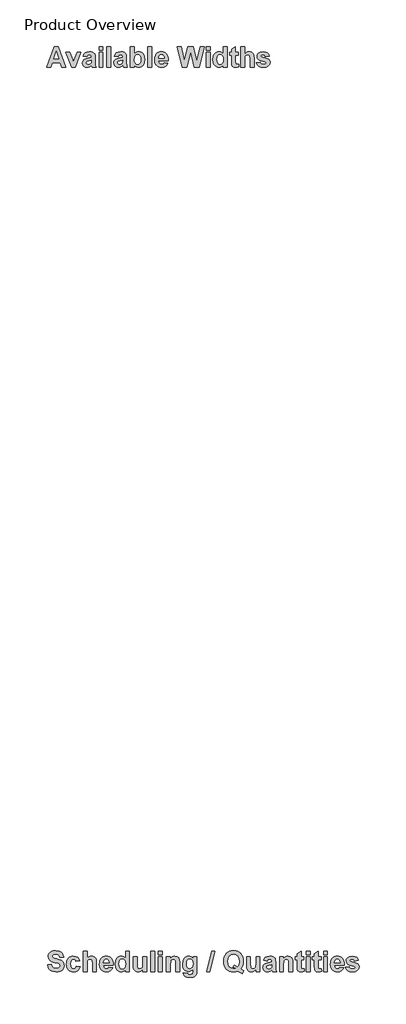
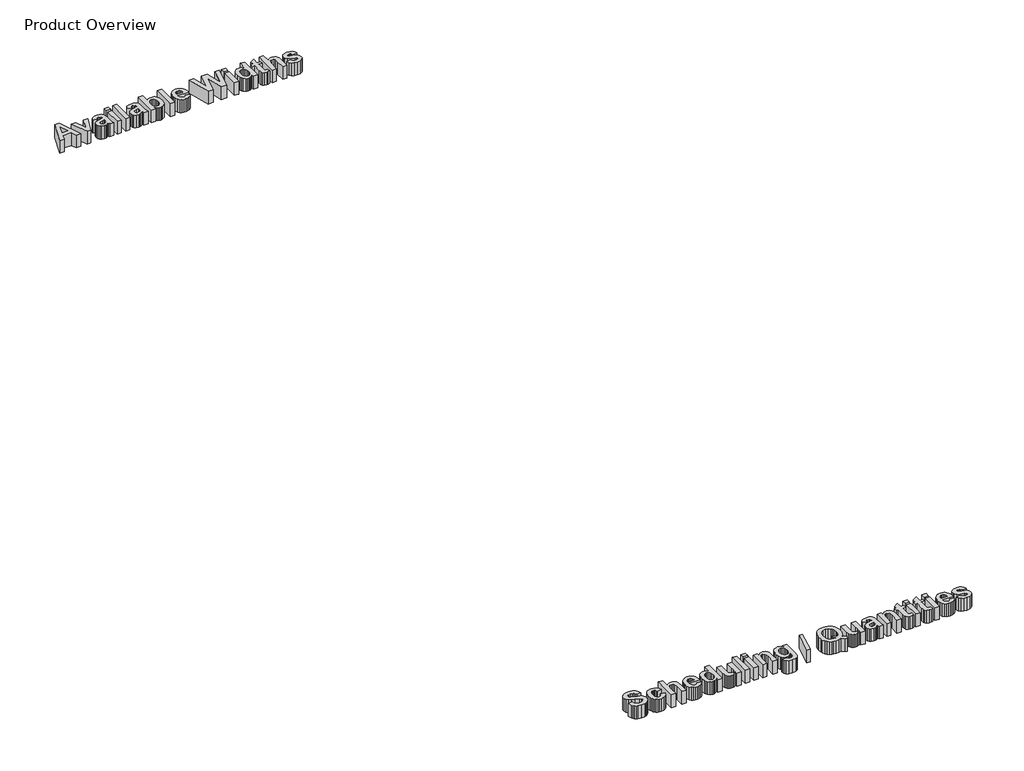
# One storey, part 8 of 11: 2 proxies.
"""IFC4 building model written with IfcOpenShell, lengths in millimetres."""

from ifc_helpers import new_model, si_unit, origin, origin_with_axes, place, context, project, spatial, polyline, outline, extrude, element, save

model = new_model("IFC4")

# Units and contexts
model_context = context("Model", 3, world=origin())
ifc_project = project(units=[si_unit("LENGTHUNIT", "METRE", prefix="MILLI")], contexts=[model_context])

# Site, building, storey
site = spatial("IfcSite", under=ifc_project)
building = spatial("IfcBuilding", under=site)
storey = spatial("IfcBuildingStorey", under=building, Name="Product Overview", Elevation=0.0)

# Proxies
placement = place(None, origin())
element("IfcBuildingElementProxy", 1, Name="250.0 BOLD", ObjectType="250.0 BOLD", at=placement, inside=storey, context=model_context, shape_type="SweptSolid", body=[
    extrude(outline(polyline([(8437.4567345, -11893.8362158), (8387.4195322, -11893.8362158), (8367.8262782, -11838.2806603), (8273.3942345, -11838.2806603), (8254.0489965, -11893.8362158), (8203.3297504, -11893.8362158), (8294.5995917, -11643.8362158), (8345.3188377, -11643.8362158), (8437.4567345, -11893.8362158)]), holes=[polyline([(8352.573302, -11794.6298666), (8320.3932425, -11703.3600253), (8288.6472107, -11794.6298666), (8352.573302, -11794.6298666)])]), origin_with_axes(), (0.0, 0.0, 1.0), 150.0),
    extrude(outline(polyline([(8510.2493933, -11893.8362158), (8439.4408615, -11711.2965333), (8487.0599092, -11711.2965333), (8520.9140758, -11804.4264936), (8530.7107028, -11835.5524857), (8535.5470123, -11819.9274857), (8540.5693338, -11804.4264936), (8574.3614965, -11711.2965333), (8621.9805441, -11711.2965333), (8552.1640758, -11893.8362158), (8510.2493933, -11893.8362158)])), origin_with_axes(), (0.0, 0.0, 1.0), 150.0),
    extrude(outline(polyline([(8691.4249885, -11766.8520888), (8647.7741949, -11758.9155809), (8657.2375505, -11736.0361166), (8671.7387286, -11719.9770888), (8692.8743313, -11710.4904817), (8722.2409607, -11707.3282793), (8748.7941601, -11709.2426518), (8767.5658615, -11714.9857694), (8780.245673, -11723.666325), (8788.5232028, -11734.3930115), (8793.0804945, -11751.0643284), (8794.5995917, -11777.5787753), (8794.5995917, -11833.8783785), (8797.1107524, -11869.3446484), (8806.5043536, -11893.8362158), (8758.885306, -11893.8362158), (8754.4210203, -11878.7072476), (8752.7469131, -11872.6928627), (8727.2632822, -11891.511067), (8713.2348843, -11896.2311191), (8698.307429, -11897.8044698), (8674.0251249, -11893.9834753), (8655.4936889, -11882.5204916), (8643.7516874, -11865.229135), (8639.8376869, -11843.9230214), (8641.5815485, -11829.3210869), (8646.8131334, -11816.3932595), (8655.1914196, -11805.7130759), (8666.3753853, -11797.854073), (8702.6477068, -11786.6313547), (8746.9805441, -11774.7885968), (8746.9805441, -11769.7662753), (8745.5001993, -11757.3964837), (8741.0591651, -11749.1809579), (8732.525869, -11744.5771632), (8718.7687385, -11743.042565), (8708.8946066, -11744.3601494), (8701.4696314, -11748.3129023), (8691.4249885, -11766.8520888)]), holes=[polyline([(8746.9805441, -11810.5028825), (8720.1328258, -11817.1063051), (8696.0752861, -11824.6397873), (8689.6113724, -11831.4137208), (8687.4567345, -11839.8307595), (8689.1850952, -11848.2710497), (8694.370177, -11855.4867615), (8702.2214295, -11860.4393284), (8711.948302, -11862.0901841), (8723.620549, -11860.1680611), (8734.7037584, -11854.401692), (8745.244433, -11840.1407793), (8746.9805441, -11819.1214341), (8746.9805441, -11810.5028825)])]), origin_with_axes(), (0.0, 0.0, 1.0), 150.0),
    extrude(outline(polyline([(8842.2186393, -11687.4870095), (8842.2186393, -11643.8362158), (8889.8376869, -11643.8362158), (8889.8376869, -11687.4870095), (8842.2186393, -11687.4870095)])), origin_with_axes(), (0.0, 0.0, 1.0), 150.0),
    extrude(outline(polyline([(8842.2186393, -11893.8362158), (8842.2186393, -11711.2965333), (8889.8376869, -11711.2965333), (8889.8376869, -11893.8362158), (8842.2186393, -11893.8362158)])), origin_with_axes(), (0.0, 0.0, 1.0), 150.0),
    extrude(outline(polyline([(8937.4567345, -11893.8362158), (8937.4567345, -11643.8362158), (8985.0757822, -11643.8362158), (8985.0757822, -11893.8362158), (8937.4567345, -11893.8362158)])), origin_with_axes(), (0.0, 0.0, 1.0), 150.0),
    extrude(outline(polyline([(9072.3773695, -11766.8520888), (9028.7265758, -11758.9155809), (9038.1899315, -11736.0361166), (9052.6911095, -11719.9770888), (9073.8267122, -11710.4904817), (9103.1933417, -11707.3282793), (9129.7465411, -11709.2426518), (9148.5182425, -11714.9857694), (9161.198054, -11723.666325), (9169.4755838, -11734.3930115), (9174.0328754, -11751.0643284), (9175.5519726, -11777.5787753), (9175.5519726, -11833.8783785), (9178.0631334, -11869.3446484), (9187.4567345, -11893.8362158), (9139.8376869, -11893.8362158), (9135.3734012, -11878.7072476), (9133.6992941, -11872.6928627), (9108.2156631, -11891.511067), (9094.1872653, -11896.2311191), (9079.2598099, -11897.8044698), (9054.9775059, -11893.9834753), (9036.4460699, -11882.5204916), (9024.7040684, -11865.229135), (9020.7900679, -11843.9230214), (9022.5339295, -11829.3210869), (9027.7655143, -11816.3932595), (9036.1438005, -11805.7130759), (9047.3277663, -11797.854073), (9083.6000877, -11786.6313547), (9127.932925, -11774.7885968), (9127.932925, -11769.7662753), (9126.4525803, -11757.3964837), (9122.0115461, -11749.1809579), (9113.4782499, -11744.5771632), (9099.7211195, -11743.042565), (9089.8469875, -11744.3601494), (9082.4220123, -11748.3129023), (9072.3773695, -11766.8520888)]), holes=[polyline([(9127.932925, -11810.5028825), (9101.0852068, -11817.1063051), (9077.0276671, -11824.6397873), (9070.5637534, -11831.4137208), (9068.4091155, -11839.8307595), (9070.1374761, -11848.2710497), (9075.322558, -11855.4867615), (9083.1738104, -11860.4393284), (9092.900683, -11862.0901841), (9104.57293, -11860.1680611), (9115.6561393, -11854.401692), (9126.1968139, -11840.1407793), (9127.932925, -11819.1214341), (9127.932925, -11810.5028825)])]), origin_with_axes(), (0.0, 0.0, 1.0), 150.0),
    extrude(outline(polyline([(9223.1710203, -11893.8362158), (9223.1710203, -11643.8362158), (9270.7900679, -11643.8362158), (9270.7900679, -11732.3158785), (9294.6305937, -11713.5751791), (9308.0622033, -11708.8900043), (9322.5013774, -11707.3282793), (9338.1031259, -11708.8357508), (9352.2942842, -11713.3581652), (9365.0748521, -11720.8955226), (9376.4448298, -11731.447823), (9385.776427, -11744.8213039), (9392.4418536, -11760.8222029), (9397.7741949, -11800.7062555), (9392.4728556, -11841.9853974), (9385.8461815, -11858.6140866), (9376.5688377, -11872.5688547), (9353.1003357, -11891.495566), (9339.6687261, -11896.2272439), (9325.1055441, -11897.8044698), (9310.3253481, -11895.8978478), (9295.7466651, -11890.1779817), (9282.2685525, -11880.7068755), (9270.7900679, -11867.5465333), (9270.7900679, -11893.8362158), (9223.1710203, -11893.8362158)]), holes=[polyline([(9270.7900679, -11799.0941523), (9272.9912088, -11824.4847773), (9279.5946314, -11842.2489142), (9293.917548, -11857.1298666), (9312.3327266, -11862.0901841), (9326.8649067, -11858.5714589), (9339.0874389, -11848.0152833), (9347.3882202, -11829.9101246), (9350.1551472, -11803.74445), (9347.3727192, -11776.0054247), (9339.0254349, -11757.2724757), (9326.3223719, -11746.6000427), (9310.4726076, -11743.042565), (9294.8553581, -11746.5147873), (9282.1057921, -11756.9314539), (9273.6189989, -11774.416573), (9270.7900679, -11799.0941523)])]), origin_with_axes(), (0.0, 0.0, 1.0), 150.0),
    extrude(outline(polyline([(9433.4884806, -11893.8362158), (9433.4884806, -11643.8362158), (9481.1075282, -11643.8362158), (9481.1075282, -11893.8362158), (9433.4884806, -11893.8362158)])), origin_with_axes(), (0.0, 0.0, 1.0), 150.0),
    extrude(outline(polyline([(9631.901179, -11838.2806603), (9679.5202266, -11846.2171682), (9667.9254845, -11868.4378403), (9651.1224092, -11884.6286265), (9629.2815113, -11894.510509), (9602.573302, -11897.8044698), (9581.0075468, -11895.8629705), (9562.4412336, -11890.0384728), (9546.8743623, -11880.3309765), (9534.306933, -11866.7404817), (9521.1930937, -11838.6061811), (9516.8218139, -11803.9304619), (9518.2711567, -11782.5235918), (9522.6191849, -11763.5658785), (9529.8658987, -11747.057322), (9540.011298, -11732.9979222), (9552.3733392, -11721.7674534), (9566.2699786, -11713.74569), (9581.7012162, -11708.932632), (9598.667052, -11707.3282793), (9617.5201336, -11708.9752597), (9634.2728308, -11713.9162009), (9648.9251435, -11722.151103), (9661.4770718, -11733.6799658), (9671.479087, -11748.6112964), (9678.4816601, -11767.0536017), (9682.4847913, -11789.0068817), (9683.4884806, -11814.4711365), (9564.4408615, -11814.4711365), (9567.494557, -11834.5294202), (9575.6635798, -11849.5653825), (9587.7078506, -11858.9589837), (9602.3872901, -11862.0901841), (9612.38543, -11860.6795938), (9620.6784607, -11856.447823), (9627.2043784, -11849.0848517), (9631.901179, -11838.2806603)]), holes=[polyline([(9635.869433, -11786.6933587), (9632.9707474, -11767.8674038), (9625.2667544, -11754.1722773), (9614.0750381, -11745.8249931), (9600.713183, -11743.042565), (9586.6072802, -11745.9722525), (9575.167548, -11754.761315), (9567.6650679, -11768.6347029), (9565.2469131, -11786.6933587), (9635.869433, -11786.6933587)])]), origin_with_axes(), (0.0, 0.0, 1.0), 150.0),
    extrude(outline(polyline([(9853.5653655, -11893.8362158), (9790.6313377, -11643.8362158), (9839.4904647, -11643.8362158), (9879.917052, -11815.5872079), (9923.3818338, -11643.8362158), (9987.431933, -11643.8362158), (10030.7107028, -11818.4393904), (10071.1372901, -11643.8362158), (10119.9964171, -11643.8362158), (10057.9924488, -11893.8362158), (10001.6308417, -11893.8362158), (9955.3138774, -11706.9562555), (9908.0668536, -11893.8362158), (9853.5653655, -11893.8362158)])), origin_with_axes(), (0.0, 0.0, 1.0), 150.0),
    extrude(outline(polyline([(10143.8059409, -11893.8362158), (10143.8059409, -11711.2965333), (10191.4249885, -11711.2965333), (10191.4249885, -11893.8362158), (10143.8059409, -11893.8362158)])), origin_with_axes(), (0.0, 0.0, 1.0), 150.0),
    extrude(outline(polyline([(10143.8059409, -11687.4870095), (10143.8059409, -11643.8362158), (10191.4249885, -11643.8362158), (10191.4249885, -11687.4870095), (10143.8059409, -11687.4870095)])), origin_with_axes(), (0.0, 0.0, 1.0), 150.0),
    extrude(outline(polyline([(10401.7424488, -11893.8362158), (10354.1234012, -11893.8362158), (10354.1234012, -11867.5465333), (10342.5054077, -11880.9006379), (10328.9807921, -11890.3329916), (10314.448612, -11895.9366003), (10299.807925, -11897.8044698), (10285.3706885, -11896.2233686), (10272.0068958, -11891.480065), (10248.4996413, -11872.5068507), (10239.1544807, -11858.6063361), (10232.479366, -11842.2024113), (10227.1392742, -11801.8843309), (10232.4716155, -11761.1167218), (10239.1370421, -11744.8949336), (10248.4686393, -11731.447823), (10259.838617, -11720.8955226), (10272.6191849, -11713.3581652), (10286.8103432, -11708.8357508), (10302.4120917, -11707.3282793), (10316.8512658, -11708.8900043), (10330.2828754, -11713.5751791), (10354.1234012, -11732.3158785), (10354.1234012, -11643.8362158), (10401.7424488, -11643.8362158), (10401.7424488, -11893.8362158)]), holes=[polyline([(10274.7583218, -11799.0941523), (10276.7424488, -11825.0118111), (10282.6948298, -11842.620938), (10296.4442097, -11857.2228726), (10314.7508814, -11862.0901841), (10329.9418536, -11858.4397004), (10342.6526671, -11847.4882496), (10351.2557177, -11829.2823344), (10354.1234012, -11803.8684579), (10351.3409731, -11776.0364266), (10342.9936889, -11757.2724757), (10330.2906259, -11746.6000427), (10314.4408615, -11743.042565), (10298.9398695, -11746.5612902), (10286.167052, -11757.1174658), (10277.6105044, -11774.6490878), (10274.7583218, -11799.0941523)])]), origin_with_axes(), (0.0, 0.0, 1.0), 150.0),
    extrude(outline(polyline([(10536.6630838, -11711.2965333), (10536.6630838, -11747.010819), (10500.948798, -11747.010819), (10500.948798, -11825.3218309), (10502.0338675, -11853.0066027), (10506.963183, -11859.5170194), (10516.3257822, -11862.0901841), (10538.6472107, -11857.5018904), (10540.6313377, -11891.3560571), (10522.2626621, -11896.1923666), (10501.6308417, -11897.8044698), (10477.573302, -11893.3401841), (10461.8552961, -11881.807446), (10454.8798496, -11862.6482198), (10453.3297504, -11827.9880015), (10453.3297504, -11747.010819), (10429.5202266, -11747.010819), (10429.5202266, -11711.2965333), (10453.3297504, -11711.2965333), (10453.3297504, -11675.5822476), (10500.948798, -11647.8044698), (10500.948798, -11711.2965333), (10536.6630838, -11711.2965333)])), origin_with_axes(), (0.0, 0.0, 1.0), 150.0),
    extrude(outline(polyline([(10612.0599092, -11643.8362158), (10612.0599092, -11734.3620095), (10624.0227998, -11722.5347525), (10637.0940113, -11714.0867119), (10651.2735438, -11709.0178875), (10666.5613972, -11707.3282793), (10682.0623893, -11708.870628), (10695.9512782, -11713.4976742), (10707.4220123, -11720.5351246), (10715.6685401, -11729.3086861), (10724.7211195, -11750.6070492), (10727.1392742, -11786.8173666), (10727.1392742, -11893.8362158), (10679.5202266, -11893.8362158), (10679.5202266, -11796.7380015), (10676.854056, -11760.0006503), (10667.4294528, -11747.6308587), (10650.5643734, -11743.042565), (10629.7310401, -11748.932942), (10621.7867817, -11756.3114142), (10616.307181, -11766.6660769), (10612.0599092, -11801.760323), (10612.0599092, -11893.8362158), (10564.4408615, -11893.8362158), (10564.4408615, -11643.8362158), (10612.0599092, -11643.8362158)])), origin_with_axes(), (0.0, 0.0, 1.0), 150.0),
    extrude(outline(polyline([(10754.917052, -11842.2489142), (10802.5360996, -11834.3124063), (10807.0701398, -11846.3101742), (10814.7198794, -11855.0217317), (10825.7488352, -11860.323071), (10840.4205242, -11862.0901841), (10856.3400431, -11860.4005759), (10867.7642742, -11855.3317515), (10872.4145718, -11849.8133984), (10873.9646711, -11842.682942), (10870.6784607, -11833.7543706), (10855.1154647, -11827.4919698), (10809.1240213, -11815.30819), (10783.7488972, -11804.1784777), (10768.0773943, -11786.5538498), (10762.8535599, -11763.1938547), (10767.3333467, -11741.4459628), (10780.7727068, -11723.4493111), (10803.6366701, -11711.3585373), (10836.3902663, -11707.3282793), (10867.6247653, -11710.5834877), (10889.651675, -11720.3491127), (10904.3621165, -11736.5011464), (10913.6472107, -11758.9155809), (10866.0281631, -11766.8520888), (10856.8515758, -11749.1809579), (10848.667052, -11744.5771632), (10837.6303457, -11743.042565), (10824.0669776, -11744.3446484), (10814.9988972, -11748.2508984), (10810.4726076, -11757.9235174), (10814.9988972, -11766.542069), (10857.1305937, -11779.8729222), (10887.7373025, -11789.4990382), (10907.4468139, -11801.1402833), (10918.0494925, -11816.5017664), (10921.5837187, -11836.916573), (10916.4606408, -11860.1448096), (10901.0914072, -11879.854321), (10875.6775307, -11893.3169326), (10840.4205242, -11897.8044698), (10807.7676844, -11894.0687307), (10782.7258318, -11882.8615134), (10765.1554573, -11865.2368855), (10754.917052, -11842.2489142)])), origin_with_axes(), (0.0, 0.0, 1.0), 150.0),
])
element("IfcBuildingElementProxy", 2, Name="250.0 BOLD", ObjectType="250.0 BOLD", at=placement, inside=storey, context=model_context, shape_type="SweptSolid", body=[
    extrude(outline(polyline([(8215.2345123, -22810.5028825), (8262.8535599, -22806.5346285), (8269.7980044, -22827.8329916), (8281.4547504, -22842.620938), (8297.901303, -22851.2704916), (8319.2151671, -22854.1536761), (8341.3350828, -22851.6037629), (8357.2235996, -22843.9540234), (8366.8032127, -22832.8940655), (8369.9964171, -22820.1134976), (8364.6950778, -22805.2015432), (8346.1248893, -22794.5058587), (8304.8302465, -22783.9031801), (8269.5809905, -22772.9439787), (8246.6705242, -22759.5356206), (8229.0458963, -22736.7026593), (8223.1710203, -22709.3744103), (8225.8681929, -22690.9592317), (8233.9597107, -22673.7841325), (8247.135554, -22659.197699), (8265.0857028, -22648.5485174), (8287.5156383, -22642.0381007), (8314.1308417, -22639.8679619), (8355.2627241, -22645.2778081), (8371.4748242, -22652.0401159), (8384.7843635, -22661.5073468), (8395.2339698, -22673.229972), (8402.8662708, -22686.7584628), (8409.6789568, -22719.2330412), (8362.0599092, -22719.2330412), (8356.7973223, -22702.8717441), (8347.7059905, -22691.8582892), (8333.94886, -22685.6036389), (8314.6888774, -22683.5187555), (8294.4135798, -22685.7353974), (8279.0985996, -22692.385323), (8272.8672008, -22699.0507496), (8270.7900679, -22707.6382992), (8272.6811889, -22715.745318), (8278.354552, -22722.5812555), (8294.8243561, -22730.5875179), (8325.0125381, -22738.8572972), (8357.2313501, -22747.4603478), (8379.7930441, -22756.4664242), (8395.604056, -22767.3713721), (8407.5708218, -22781.6710373), (8415.104304, -22799.5436811), (8417.6154647, -22821.167565), (8414.6470247, -22841.8148865), (8405.7417048, -22861.0981206), (8391.4032871, -22877.3121583), (8372.135554, -22888.7518904), (8347.729242, -22895.541325), (8317.9750877, -22897.8044698), (8276.2154151, -22892.2318631), (8259.4510922, -22885.2661048), (8245.4304449, -22875.5140432), (8234.0565919, -22863.0919357), (8225.2326522, -22848.1160397), (8215.2345123, -22810.5028825)])), origin_with_axes(), (0.0, 0.0, 1.0), 150.0),
    extrude(outline(polyline([(8608.0916552, -22762.8838349), (8560.4726076, -22770.8203428), (8556.8221239, -22758.7063175), (8550.3349588, -22750.0180115), (8541.2436269, -22744.7864266), (8529.7806433, -22743.042565), (8514.682677, -22746.3132744), (8502.994929, -22756.1254023), (8495.5079498, -22773.5950204), (8493.0122901, -22799.8382), (8495.6087063, -22828.9335621), (8503.3979548, -22848.0152833), (8515.5584831, -22858.5714589), (8531.2687385, -22862.0901841), (8543.1657499, -22860.0828056), (8552.6911095, -22854.0606702), (8559.7983144, -22843.1247203), (8564.4408615, -22826.3758984), (8612.0599092, -22834.3124063), (8601.635492, -22861.8964217), (8584.6231532, -22881.776444), (8560.8678829, -22893.7974633), (8530.2146711, -22897.8044698), (8511.8208063, -22896.2272439), (8495.3916924, -22891.495566), (8480.9273292, -22883.6094363), (8468.4277167, -22872.5688547), (8458.3501342, -22858.7419698), (8451.151861, -22842.4969301), (8446.8328971, -22823.8337357), (8445.3932425, -22802.7523865), (8446.823209, -22781.4327095), (8451.1131086, -22762.6125675), (8458.2629411, -22746.2919605), (8468.2727068, -22732.4708884), (8480.7238786, -22721.470997), (8495.19793, -22713.6139316), (8511.6948608, -22708.8996924), (8530.2146711, -22707.3282793), (8558.8760054, -22710.7617491), (8580.9959211, -22721.0621583), (8597.1944578, -22738.3845169), (8608.0916552, -22762.8838349)])), origin_with_axes(), (0.0, 0.0, 1.0), 150.0),
    extrude(outline(polyline([(8695.3932425, -22643.8362158), (8695.3932425, -22734.3620095), (8707.3561331, -22722.5347525), (8720.4273447, -22714.0867119), (8734.6068772, -22709.0178875), (8749.8947306, -22707.3282793), (8765.3957226, -22708.870628), (8779.2846115, -22713.4976742), (8790.7553457, -22720.5351246), (8799.0018734, -22729.3086861), (8808.0544528, -22750.6070492), (8810.4726076, -22786.8173666), (8810.4726076, -22893.8362158), (8762.8535599, -22893.8362158), (8762.8535599, -22796.7380015), (8760.1873893, -22760.0006503), (8750.7627861, -22747.6308587), (8733.8977068, -22743.042565), (8713.0643734, -22748.932942), (8705.120115, -22756.3114142), (8699.6405143, -22766.6660769), (8695.3932425, -22801.760323), (8695.3932425, -22893.8362158), (8647.7741949, -22893.8362158), (8647.7741949, -22643.8362158), (8695.3932425, -22643.8362158)])), origin_with_axes(), (0.0, 0.0, 1.0), 150.0),
    extrude(outline(polyline([(8961.2662584, -22838.2806603), (9008.885306, -22846.2171682), (8997.2905639, -22868.4378403), (8980.4874885, -22884.6286265), (8958.6465907, -22894.510509), (8931.9383814, -22897.8044698), (8910.3726262, -22895.8629705), (8891.8063129, -22890.0384728), (8876.2394416, -22880.3309765), (8863.6720123, -22866.7404817), (8850.558173, -22838.6061811), (8846.1868933, -22803.9304619), (8847.636236, -22782.5235918), (8851.9842643, -22763.5658785), (8859.2309781, -22747.057322), (8869.3763774, -22732.9979222), (8881.7384186, -22721.7674534), (8895.635058, -22713.74569), (8911.0662956, -22708.932632), (8928.0321314, -22707.3282793), (8946.885213, -22708.9752597), (8963.6379101, -22713.9162009), (8978.2902229, -22722.151103), (8990.8421512, -22733.6799658), (9000.8441663, -22748.6112964), (9007.8467395, -22767.0536017), (9011.8498707, -22789.0068817), (9012.8535599, -22814.4711365), (8893.8059409, -22814.4711365), (8896.8596363, -22834.5294202), (8905.0286592, -22849.5653825), (8917.07293, -22858.9589837), (8931.7523695, -22862.0901841), (8941.7505093, -22860.6795938), (8950.0435401, -22856.447823), (8956.5694578, -22849.0848517), (8961.2662584, -22838.2806603)]), holes=[polyline([(8965.2345123, -22786.6933587), (8962.3358268, -22767.8674038), (8954.6318338, -22754.1722773), (8943.4401175, -22745.8249931), (8930.0782623, -22743.042565), (8915.9723595, -22745.9722525), (8904.5326274, -22754.761315), (8897.0301472, -22768.6347029), (8894.6119925, -22786.6933587), (8965.2345123, -22786.6933587)])]), origin_with_axes(), (0.0, 0.0, 1.0), 150.0),
    extrude(outline(polyline([(9211.2662584, -22893.8362158), (9163.6472107, -22893.8362158), (9163.6472107, -22867.5465333), (9152.0292172, -22880.9006379), (9138.5046016, -22890.3329916), (9123.9724216, -22895.9366003), (9109.3317345, -22897.8044698), (9094.8944981, -22896.2233686), (9081.5307053, -22891.480065), (9058.0234508, -22872.5068507), (9048.6782902, -22858.6063361), (9042.0031755, -22842.2024113), (9036.6630838, -22801.8843309), (9041.995425, -22761.1167218), (9048.6608516, -22744.8949336), (9057.9924488, -22731.447823), (9069.3624265, -22720.8955226), (9082.1429945, -22713.3581652), (9096.3341527, -22708.8357508), (9111.9359012, -22707.3282793), (9126.3750753, -22708.8900043), (9139.8066849, -22713.5751791), (9163.6472107, -22732.3158785), (9163.6472107, -22643.8362158), (9211.2662584, -22643.8362158), (9211.2662584, -22893.8362158)]), holes=[polyline([(9084.2821314, -22799.0941523), (9086.2662584, -22825.0118111), (9092.2186393, -22842.620938), (9105.9680193, -22857.2228726), (9124.2746909, -22862.0901841), (9139.4656631, -22858.4397004), (9152.1764766, -22847.4882496), (9160.7795272, -22829.2823344), (9163.6472107, -22803.8684579), (9160.8647827, -22776.0364266), (9152.5174984, -22757.2724757), (9139.8144354, -22746.6000427), (9123.9646711, -22743.042565), (9108.463679, -22746.5612902), (9095.6908615, -22757.1174658), (9087.1343139, -22774.6490878), (9084.2821314, -22799.0941523)])]), origin_with_axes(), (0.0, 0.0, 1.0), 150.0),
    extrude(outline(polyline([(9373.9646711, -22893.8362158), (9373.9646711, -22867.0505015), (9362.9977192, -22879.8465705), (9349.0700778, -22889.588944), (9333.2203134, -22895.7505883), (9316.4869925, -22897.8044698), (9299.947434, -22895.7893408), (9285.1749885, -22889.7439539), (9273.2082226, -22880.0480834), (9265.0857028, -22867.0815035), (9260.4354052, -22849.6816399), (9258.885306, -22826.6859182), (9258.885306, -22711.2965333), (9306.5043536, -22711.2965333), (9306.5043536, -22795.6839341), (9309.0775183, -22843.1479718), (9318.5021215, -22856.9748567), (9335.8942345, -22862.0901841), (9347.2952142, -22860.385075), (9357.4406135, -22855.2697476), (9365.4546264, -22847.620008), (9370.4614468, -22838.3116623), (9373.9646711, -22788.7394896), (9373.9646711, -22711.2965333), (9421.5837187, -22711.2965333), (9421.5837187, -22893.8362158), (9373.9646711, -22893.8362158)])), origin_with_axes(), (0.0, 0.0, 1.0), 150.0),
    extrude(outline(polyline([(9469.2027663, -22893.8362158), (9469.2027663, -22643.8362158), (9516.8218139, -22643.8362158), (9516.8218139, -22893.8362158), (9469.2027663, -22893.8362158)])), origin_with_axes(), (0.0, 0.0, 1.0), 150.0),
    extrude(outline(polyline([(9564.4408615, -22687.4870095), (9564.4408615, -22643.8362158), (9612.0599092, -22643.8362158), (9612.0599092, -22687.4870095), (9564.4408615, -22687.4870095)])), origin_with_axes(), (0.0, 0.0, 1.0), 150.0),
    extrude(outline(polyline([(9564.4408615, -22893.8362158), (9564.4408615, -22711.2965333), (9612.0599092, -22711.2965333), (9612.0599092, -22893.8362158), (9564.4408615, -22893.8362158)])), origin_with_axes(), (0.0, 0.0, 1.0), 150.0),
    extrude(outline(polyline([(9822.3773695, -22893.8362158), (9774.7583218, -22893.8362158), (9774.7583218, -22800.0242119), (9771.7821314, -22761.4577436), (9762.0475084, -22747.8788746), (9745.8644726, -22743.042565), (9734.339485, -22744.7709256), (9724.0700778, -22749.9560075), (9715.947558, -22758.0010224), (9710.8632326, -22768.3091821), (9707.2980044, -22810.5648865), (9707.2980044, -22893.8362158), (9659.6789568, -22893.8362158), (9659.6789568, -22711.2965333), (9707.2980044, -22711.2965333), (9707.2980044, -22737.5862158), (9719.3461505, -22724.3483686), (9732.8591403, -22714.8927634), (9747.8369739, -22709.2194003), (9764.2796512, -22707.3282793), (9791.9334211, -22713.0946484), (9810.9066353, -22727.7895888), (9819.8662088, -22748.0338845), (9822.3773695, -22780.4929619), (9822.3773695, -22893.8362158)])), origin_with_axes(), (0.0, 0.0, 1.0), 150.0),
    extrude(outline(polyline([(9866.0281631, -22905.7409777), (9921.5837187, -22913.6774857), (9927.4740957, -22925.0862158), (9947.6253853, -22929.5505015), (9963.0333715, -22928.1399113), (9974.0390758, -22923.9081404), (9982.9676472, -22911.6933587), (9985.0757822, -22889.495938), (9985.0757822, -22862.8962357), (9972.7951212, -22876.432477), (9959.5146463, -22886.1012208), (9945.2343573, -22891.9024671), (9929.9542544, -22893.8362158), (9913.2635612, -22891.8947166), (9898.4097355, -22886.0702188), (9885.3927775, -22876.3627225), (9874.2126869, -22862.7722277), (9862.1219131, -22835.2114638), (9858.0916552, -22801.636315), (9863.369743, -22761.1709753), (9869.9673527, -22745.0015029), (9879.2040064, -22731.5408289), (9890.4054108, -22720.9478385), (9902.8972727, -22713.3814167), (9916.6795923, -22708.8415637), (9931.7523695, -22707.3282793), (9947.2223595, -22709.1225191), (9961.2662584, -22714.5052386), (9973.8840659, -22723.4764378), (9985.0757822, -22736.0361166), (9985.0757822, -22711.2965333), (10032.6948298, -22711.2965333), (10032.6948298, -22873.4369103), (10031.4004969, -22901.3464465), (10027.5174984, -22921.2109678), (10021.3016006, -22935.3401221), (10013.0085699, -22946.0435571), (10002.1113724, -22954.0653205), (9988.0829746, -22960.1494599), (9948.6174488, -22965.2647873), (9910.0974836, -22961.4515432), (9884.6913576, -22950.0118111), (9870.5544528, -22932.7127039), (9865.8421512, -22911.3213349), (9866.0281631, -22905.7409777)]), holes=[polyline([(9905.7107028, -22799.8382), (9908.4621289, -22826.0348765), (9916.7164072, -22844.1090333), (9929.0164444, -22854.6187059), (9943.9051472, -22858.1219301), (9959.8634186, -22854.5257), (9973.1400183, -22843.7370095), (9982.0918412, -22825.8953676), (9985.0757822, -22801.1402833), (9982.2158491, -22775.4318879), (9973.63605, -22757.3344797), (9960.6849712, -22746.6155437), (9944.7111988, -22743.042565), (9929.2179573, -22746.5457892), (9916.7164072, -22757.0554619), (9908.4621289, -22774.7575948), (9905.7107028, -22799.8382)])]), origin_with_axes(), (0.0, 0.0, 1.0), 150.0),
    extrude(outline(polyline([(10150.8743933, -22893.8362158), (10210.3982028, -22643.8362158), (10246.9805441, -22643.8362158), (10187.4567345, -22893.8362158), (10150.8743933, -22893.8362158)])), origin_with_axes(), (0.0, 0.0, 1.0), 150.0),
    extrude(outline(polyline([(10564.8128853, -22860.9121087), (10604.1234012, -22881.9314539), (10586.0182425, -22917.6457396), (10564.2548496, -22908.7171682), (10531.5787584, -22887.2017912), (10506.2811393, -22895.1538002), (10478.3793536, -22897.8044698), (10451.698271, -22895.6885844), (10428.0786343, -22889.3409281), (10407.5204436, -22878.761501), (10390.0236988, -22863.9503031), (10376.0534297, -22845.3103602), (10366.0746661, -22823.244698), (10360.0874079, -22797.7533165), (10358.0916552, -22768.8362158), (10360.1029089, -22739.9946825), (10366.1366701, -22714.5439911), (10376.1929387, -22692.4841418), (10390.2717147, -22673.8151345), (10407.7955862, -22658.9632465), (10428.1871413, -22648.354755), (10451.4463799, -22641.9896601), (10477.573302, -22639.8679619), (10503.4715845, -22641.979972), (10526.5409359, -22648.3160025), (10546.7813563, -22658.8760534), (10564.1928457, -22673.6601246), (10578.1902415, -22692.245814), (10588.1883814, -22714.2107198), (10594.1872653, -22739.5548418), (10596.1868933, -22768.2781801), (10593.8927465, -22798.5051146), (10587.010306, -22824.8257992), (10577.9887286, -22843.1789738), (10564.8128853, -22860.9121087)]), holes=[polyline([(10525.3163576, -22833.6923666), (10535.5082598, -22821.152064), (10542.7704746, -22806.2246087), (10547.1185029, -22788.9100005), (10548.5678457, -22769.2082396), (10543.6385302, -22731.5640804), (10537.4768858, -22716.8284498), (10528.8505838, -22704.8171186), (10506.0796264, -22688.8433463), (10477.2012782, -22683.5187555), (10448.3461815, -22688.8045938), (10425.5209707, -22704.6621087), (10416.8539785, -22716.5668706), (10410.6632698, -22731.1378031), (10405.7107028, -22768.2781801), (10410.5935153, -22805.9455908), (10416.6970309, -22820.7102858), (10425.2419528, -22832.7623071), (10447.3463675, -22848.8058339), (10474.5971115, -22854.1536761), (10495.6164568, -22850.9294698), (10465.2345123, -22838.2806603), (10478.9993933, -22810.5028825), (10502.7004101, -22820.1755015), (10525.3163576, -22833.6923666)])]), origin_with_axes(), (0.0, 0.0, 1.0), 150.0),
    extrude(outline(polyline([(10750.948798, -22893.8362158), (10750.948798, -22867.0505015), (10739.9818462, -22879.8465705), (10726.0542048, -22889.588944), (10710.2044404, -22895.7505883), (10693.4711195, -22897.8044698), (10676.9315609, -22895.7893408), (10662.1591155, -22889.7439539), (10650.1923496, -22880.0480834), (10642.0698298, -22867.0815035), (10637.4195322, -22849.6816399), (10635.869433, -22826.6859182), (10635.869433, -22711.2965333), (10683.4884806, -22711.2965333), (10683.4884806, -22795.6839341), (10686.0616453, -22843.1479718), (10695.4862484, -22856.9748567), (10712.8783615, -22862.0901841), (10724.2793412, -22860.385075), (10734.4247405, -22855.2697476), (10742.4387534, -22847.620008), (10747.4455738, -22838.3116623), (10750.948798, -22788.7394896), (10750.948798, -22711.2965333), (10798.5678457, -22711.2965333), (10798.5678457, -22893.8362158), (10750.948798, -22893.8362158)])), origin_with_axes(), (0.0, 0.0, 1.0), 150.0),
    extrude(outline(polyline([(10885.869433, -22766.8520888), (10842.2186393, -22758.9155809), (10851.681995, -22736.0361166), (10866.183173, -22719.9770888), (10887.3187757, -22710.4904817), (10916.6854052, -22707.3282793), (10943.2386046, -22709.2426518), (10962.010306, -22714.9857694), (10974.6901175, -22723.666325), (10982.9676472, -22734.3930115), (10987.5249389, -22751.0643284), (10989.0440361, -22777.5787753), (10989.0440361, -22833.8783785), (10991.5551968, -22869.3446484), (11000.948798, -22893.8362158), (10953.3297504, -22893.8362158), (10948.8654647, -22878.7072476), (10947.1913576, -22872.6928627), (10921.7077266, -22891.511067), (10907.6793288, -22896.2311191), (10892.7518734, -22897.8044698), (10868.4695694, -22893.9834753), (10849.9381334, -22882.5204916), (10838.1961319, -22865.229135), (10834.2821314, -22843.9230214), (10836.025993, -22829.3210869), (10841.2575778, -22816.3932595), (10849.635864, -22805.7130759), (10860.8198298, -22797.854073), (10897.0921512, -22786.6313547), (10941.4249885, -22774.7885968), (10941.4249885, -22769.7662753), (10939.9446438, -22757.3964837), (10935.5036095, -22749.1809579), (10926.9703134, -22744.5771632), (10913.213183, -22743.042565), (10903.339051, -22744.3601494), (10895.9140758, -22748.3129023), (10885.869433, -22766.8520888)]), holes=[polyline([(10941.4249885, -22810.5028825), (10914.5772703, -22817.1063051), (10890.5197306, -22824.6397873), (10884.0558169, -22831.4137208), (10881.901179, -22839.8307595), (10883.6295396, -22848.2710497), (10888.8146215, -22855.4867615), (10896.6658739, -22860.4393284), (10906.3927465, -22862.0901841), (10918.0649935, -22860.1680611), (10929.1482028, -22854.401692), (10939.6888774, -22840.1407793), (10941.4249885, -22819.1214341), (10941.4249885, -22810.5028825)])]), origin_with_axes(), (0.0, 0.0, 1.0), 150.0),
    extrude(outline(polyline([(11199.3614965, -22893.8362158), (11151.7424488, -22893.8362158), (11151.7424488, -22800.0242119), (11148.7662584, -22761.4577436), (11139.0316353, -22747.8788746), (11122.8485996, -22743.042565), (11111.323612, -22744.7709256), (11101.0542048, -22749.9560075), (11092.9316849, -22758.0010224), (11087.8473595, -22768.3091821), (11084.2821314, -22810.5648865), (11084.2821314, -22893.8362158), (11036.6630838, -22893.8362158), (11036.6630838, -22711.2965333), (11084.2821314, -22711.2965333), (11084.2821314, -22737.5862158), (11096.3302775, -22724.3483686), (11109.8432673, -22714.8927634), (11124.8211009, -22709.2194003), (11141.2637782, -22707.3282793), (11168.917548, -22713.0946484), (11187.8907623, -22727.7895888), (11196.8503357, -22748.0338845), (11199.3614965, -22780.4929619), (11199.3614965, -22893.8362158)])), origin_with_axes(), (0.0, 0.0, 1.0), 150.0),
    extrude(outline(polyline([(11334.2821314, -22711.2965333), (11334.2821314, -22747.010819), (11298.5678457, -22747.010819), (11298.5678457, -22825.3218309), (11299.6529151, -22853.0066027), (11304.5822306, -22859.5170194), (11313.9448298, -22862.0901841), (11336.2662584, -22857.5018904), (11338.2503853, -22891.3560571), (11319.8817097, -22896.1923666), (11299.2498893, -22897.8044698), (11275.1923496, -22893.3401841), (11259.4743437, -22881.807446), (11252.4988972, -22862.6482198), (11250.948798, -22827.9880015), (11250.948798, -22747.010819), (11227.1392742, -22747.010819), (11227.1392742, -22711.2965333), (11250.948798, -22711.2965333), (11250.948798, -22675.5822476), (11298.5678457, -22647.8044698), (11298.5678457, -22711.2965333), (11334.2821314, -22711.2965333)])), origin_with_axes(), (0.0, 0.0, 1.0), 150.0),
    extrude(outline(polyline([(11362.0599092, -22687.4870095), (11362.0599092, -22643.8362158), (11409.6789568, -22643.8362158), (11409.6789568, -22687.4870095), (11362.0599092, -22687.4870095)])), origin_with_axes(), (0.0, 0.0, 1.0), 150.0),
    extrude(outline(polyline([(11362.0599092, -22893.8362158), (11362.0599092, -22711.2965333), (11409.6789568, -22711.2965333), (11409.6789568, -22893.8362158), (11362.0599092, -22893.8362158)])), origin_with_axes(), (0.0, 0.0, 1.0), 150.0),
    extrude(outline(polyline([(11544.5995917, -22711.2965333), (11544.5995917, -22747.010819), (11508.885306, -22747.010819), (11508.885306, -22825.3218309), (11509.9703754, -22853.0066027), (11514.8996909, -22859.5170194), (11524.2622901, -22862.0901841), (11546.5837187, -22857.5018904), (11548.5678457, -22891.3560571), (11530.1991701, -22896.1923666), (11509.5673496, -22897.8044698), (11485.5098099, -22893.3401841), (11469.791804, -22881.807446), (11462.8163576, -22862.6482198), (11461.2662584, -22827.9880015), (11461.2662584, -22747.010819), (11437.4567345, -22747.010819), (11437.4567345, -22711.2965333), (11461.2662584, -22711.2965333), (11461.2662584, -22675.5822476), (11508.885306, -22647.8044698), (11508.885306, -22711.2965333), (11544.5995917, -22711.2965333)])), origin_with_axes(), (0.0, 0.0, 1.0), 150.0),
    extrude(outline(polyline([(11572.3773695, -22893.8362158), (11572.3773695, -22711.2965333), (11619.9964171, -22711.2965333), (11619.9964171, -22893.8362158), (11572.3773695, -22893.8362158)])), origin_with_axes(), (0.0, 0.0, 1.0), 150.0),
    extrude(outline(polyline([(11572.3773695, -22687.4870095), (11572.3773695, -22643.8362158), (11619.9964171, -22643.8362158), (11619.9964171, -22687.4870095), (11572.3773695, -22687.4870095)])), origin_with_axes(), (0.0, 0.0, 1.0), 150.0),
    extrude(outline(polyline([(11770.7900679, -22838.2806603), (11818.4091155, -22846.2171682), (11806.8143734, -22868.4378403), (11790.011298, -22884.6286265), (11768.1704002, -22894.510509), (11741.4621909, -22897.8044698), (11719.8964357, -22895.8629705), (11701.3301224, -22890.0384728), (11685.7632512, -22880.3309765), (11673.1958218, -22866.7404817), (11660.0819826, -22838.6061811), (11655.7107028, -22803.9304619), (11657.1600456, -22782.5235918), (11661.5080738, -22763.5658785), (11668.7547876, -22747.057322), (11678.9001869, -22732.9979222), (11691.2622281, -22721.7674534), (11705.1588675, -22713.74569), (11720.5901051, -22708.932632), (11737.5559409, -22707.3282793), (11756.4090225, -22708.9752597), (11773.1617197, -22713.9162009), (11787.8140324, -22722.151103), (11800.3659607, -22733.6799658), (11810.3679759, -22748.6112964), (11817.370549, -22767.0536017), (11821.3736802, -22789.0068817), (11822.3773695, -22814.4711365), (11703.3297504, -22814.4711365), (11706.3834459, -22834.5294202), (11714.5524687, -22849.5653825), (11726.5967395, -22858.9589837), (11741.276179, -22862.0901841), (11751.2743189, -22860.6795938), (11759.5673496, -22856.447823), (11766.0932673, -22849.0848517), (11770.7900679, -22838.2806603)]), holes=[polyline([(11774.7583218, -22786.6933587), (11771.8596363, -22767.8674038), (11764.1556433, -22754.1722773), (11752.963927, -22745.8249931), (11739.6020718, -22743.042565), (11725.4961691, -22745.9722525), (11714.0564369, -22754.761315), (11706.5539568, -22768.6347029), (11704.135802, -22786.6933587), (11774.7583218, -22786.6933587)])]), origin_with_axes(), (0.0, 0.0, 1.0), 150.0),
    extrude(outline(polyline([(11838.2503853, -22842.2489142), (11885.869433, -22834.3124063), (11890.4034731, -22846.3101742), (11898.0532127, -22855.0217317), (11909.0821686, -22860.323071), (11923.7538576, -22862.0901841), (11939.6733764, -22860.4005759), (11951.0976076, -22855.3317515), (11955.7479052, -22849.8133984), (11957.2980044, -22842.682942), (11954.0117941, -22833.7543706), (11938.448798, -22827.4919698), (11892.4573546, -22815.30819), (11867.0822306, -22804.1784777), (11851.4107276, -22786.5538498), (11846.1868933, -22763.1938547), (11850.66668, -22741.4459628), (11864.1060401, -22723.4493111), (11886.9700034, -22711.3585373), (11919.7235996, -22707.3282793), (11950.9580986, -22710.5834877), (11972.9850084, -22720.3491127), (11987.6954498, -22736.5011464), (11996.9805441, -22758.9155809), (11949.3614965, -22766.8520888), (11940.1849092, -22749.1809579), (11932.0003853, -22744.5771632), (11920.963679, -22743.042565), (11907.4003109, -22744.3446484), (11898.3322306, -22748.2508984), (11893.8059409, -22757.9235174), (11898.3322306, -22766.542069), (11940.463927, -22779.8729222), (11971.0706358, -22789.4990382), (11990.7801472, -22801.1402833), (12001.3828258, -22816.5017664), (12004.917052, -22836.916573), (11999.7939741, -22860.1448096), (11984.4247405, -22879.854321), (11959.010864, -22893.3169326), (11923.7538576, -22897.8044698), (11891.1010178, -22894.0687307), (11866.0591651, -22882.8615134), (11848.4887906, -22865.2368855), (11838.2503853, -22842.2489142)])), origin_with_axes(), (0.0, 0.0, 1.0), 150.0),
])

save(model, "model.ifc")
